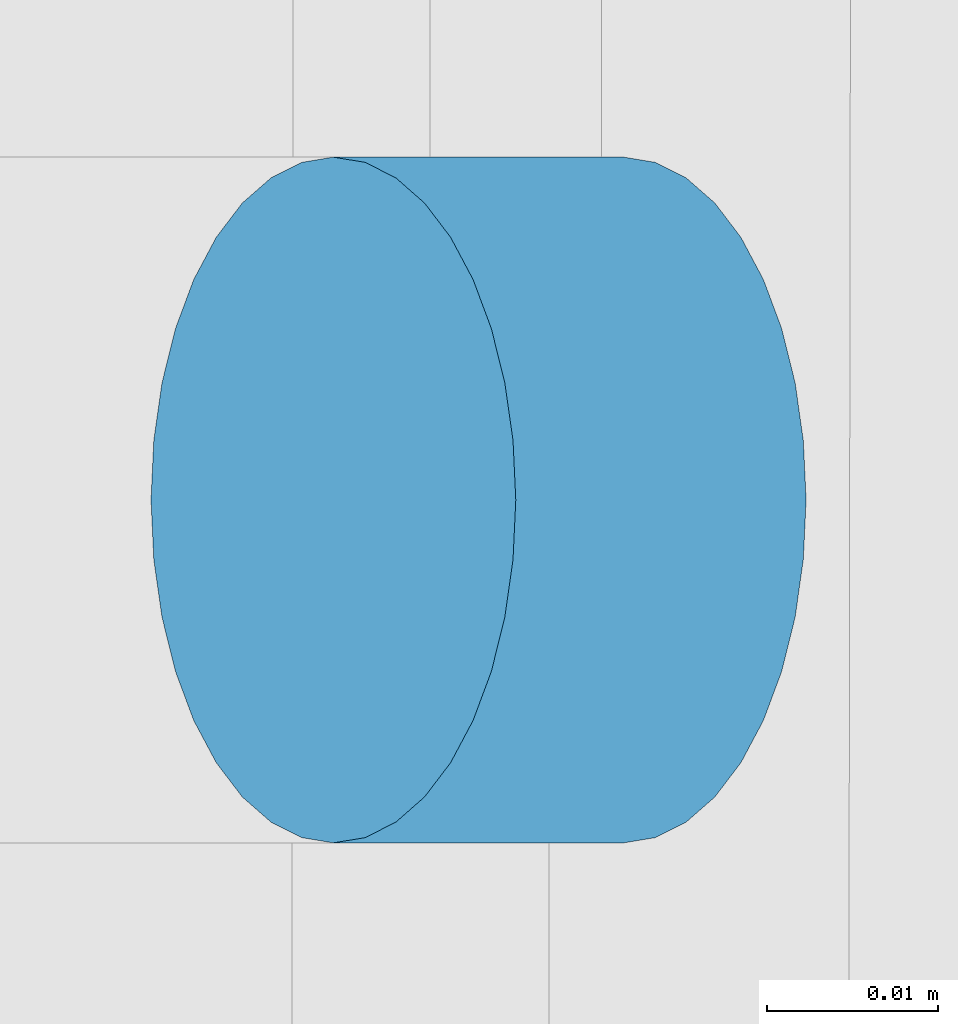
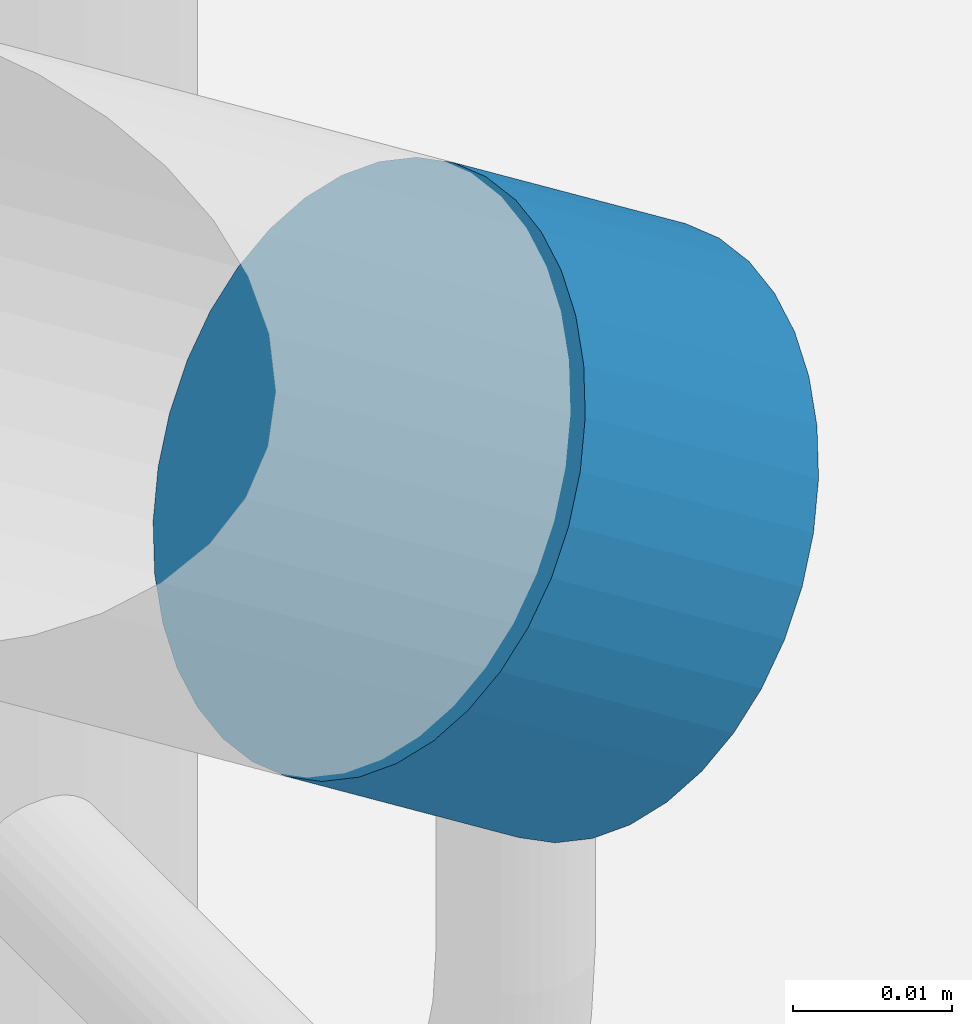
# One storey, part 149 of 237: 1 building element part, 1 element without a shape of its own.
"""IFC2X3 building model written with IfcOpenShell, lengths in millimetres."""

from ifc_helpers import new_model, entity, si_unit, converted_unit, derived_unit, money_unit, direction, frame, origin_with_axes, place, context, subcontext, project, spatial, faceted_brep, material, type_object, element, aggregate, save


model = new_model("IFC2X3")

# Units and contexts
model_context = context("Model", 3, precision=0.01, world=origin_with_axes(), true_north=direction((0.0, 1.0)))
body_context = subcontext(model_context, "Body", "Model", "MODEL_VIEW")
ifc_project = project(units=[si_unit("LENGTHUNIT", "METRE", prefix="MILLI"), si_unit("AREAUNIT", "SQUARE_METRE"), si_unit("VOLUMEUNIT", "CUBIC_METRE"), converted_unit("PLANEANGLEUNIT", "DEGREE", entity("IfcPlaneAngleMeasure", 0.0174532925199), si_unit("PLANEANGLEUNIT", "RADIAN"), dimensions=[0, 0, 0, 0, 0, 0, 0]), money_unit("USD"), converted_unit("TIMEUNIT", "Year", entity("IfcTimeMeasure", 31556926.0), si_unit("TIMEUNIT", "SECOND"), dimensions=[0, 0, 1, 0, 0, 0, 0]), si_unit("MASSUNIT", "GRAM", prefix="KILO"), si_unit("THERMODYNAMICTEMPERATUREUNIT", "DEGREE_CELSIUS"), si_unit("LUMINOUSINTENSITYUNIT", "LUMEN"), si_unit("ENERGYUNIT", "JOULE", prefix="MEGA"), derived_unit("THERMALCONDUCTANCEUNIT", [(si_unit("POWERUNIT", "WATT"), 1), (si_unit("LENGTHUNIT", "METRE"), -1), (si_unit("THERMODYNAMICTEMPERATUREUNIT", "KELVIN"), -1)]), derived_unit("SPECIFICHEATCAPACITYUNIT", [(si_unit("ENERGYUNIT", "JOULE"), 1), (si_unit("MASSUNIT", "GRAM", prefix="KILO"), -1), (si_unit("THERMODYNAMICTEMPERATUREUNIT", "KELVIN"), -1)]), derived_unit("MASSDENSITYUNIT", [(si_unit("MASSUNIT", "GRAM", prefix="KILO"), 1), (si_unit("VOLUMEUNIT", "CUBIC_METRE"), -1)])], contexts=[model_context])

# Site, building, storey
site_placement = place(None, origin_with_axes())
site = spatial("IfcSite", under=ifc_project, at=site_placement, Name="Local", CompositionType="ELEMENT")
building_placement = place(site_placement, origin_with_axes())
building = spatial("IfcBuilding", under=site, at=building_placement, Name="Construção", CompositionType="ELEMENT")
storey_placement = place(building_placement, origin_with_axes())
storey = spatial("IfcBuildingStorey", under=building, at=storey_placement, Name="Pavimento Térreo", CompositionType="ELEMENT", Elevation=0.0)

# Railing, building element part
railing_type = type_object("IfcRailingType", Name="Tipo de Guarda-Corpo", PredefinedType="NOTDEFINED")
railing_placement = place(storey_placement, frame((104000.0, 14000.0, -7099.22292764), z_axis=(0.0, 0.0, 1.0), x_axis=(1.0, 0.0, 0.0)))
railing = element("IfcRailing", 1, at=railing_placement, inside=storey, type_object=railing_type, Name="Guarda-Corpo - 001", PredefinedType="NOTDEFINED")
ifc_material = material(Name="Aço - Inoxidável")
building_element_part_placement = place(railing_placement, origin_with_axes())
building_element_part = element("IfcBuildingElementPart", 2, at=building_element_part_placement, material=ifc_material, Name="Aço - Inoxidável", context=body_context, shape_type="Brep", body=[
    faceted_brep([(-436.426596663, 694.521619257, 928.19352461), (-434.579116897, 694.217787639, 931.134324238), (-417.643726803, 694.217909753, 920.495124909), (-419.491206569, 694.521741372, 917.554325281), (-438.274072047, 694.217760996, 925.252724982), (-440.065408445, 693.315445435, 922.401280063), (-441.746177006, 691.842088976, 919.725829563), (-443.265308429, 689.842458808, 917.307665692), (-444.576644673, 687.377312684, 915.220263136), (-445.640341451, 684.52155282, 913.527046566), (-446.424078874, 681.361950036, 912.279463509), (-446.904043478, 677.994507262, 911.515421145), (-447.065651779, 674.521542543, 911.258134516), (-446.903993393, 671.048580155, 911.515421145), (-446.423980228, 667.681144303, 912.279463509), (-445.640197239, 664.521552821, 913.527046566), (-444.576459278, 661.665808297, 915.220263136), (-443.265087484, 659.200681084, 917.307665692), (-441.745927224, 657.201072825, 919.725829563), (-440.065137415, 655.727740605, 922.401280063), (-438.273788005, 654.825450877, 925.252724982), (-436.426308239, 654.521619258, 928.19352461), (-434.578832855, 654.82547752, 931.134324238), (-432.787496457, 655.727793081, 933.985769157), (-431.106727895, 657.20114954, 936.661219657), (-429.587596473, 659.200779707, 939.079383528), (-428.276260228, 661.665925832, 941.166786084), (-427.21256345, 664.521685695, 942.860002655), (-426.428826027, 667.68128848, 944.107585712), (-425.948861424, 671.048731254, 944.871628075), (-425.787253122, 674.521695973, 945.128914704), (-425.948911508, 677.994658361, 944.871628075), (-426.428924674, 681.362094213, 944.107585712), (-427.212707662, 684.521685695, 942.860002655), (-428.276445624, 687.377430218, 941.166786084), (-429.587817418, 689.842557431, 939.079383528), (-431.106977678, 691.842165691, 936.661219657), (-432.787767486, 693.315497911, 933.985769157), (-415.852377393, 693.315620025, 923.346569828), (-414.171587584, 691.842287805, 926.022020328), (-412.652427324, 689.842679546, 928.440184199), (-411.34105553, 687.377552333, 930.527586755), (-410.277317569, 684.521807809, 932.220803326), (-409.49353458, 681.362216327, 933.468386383), (-409.013521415, 677.994780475, 934.232428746), (-408.851863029, 674.521818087, 934.489715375), (-409.01347133, 671.048853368, 934.232428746), (-409.493435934, 667.681410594, 933.468386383), (-410.277173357, 664.521807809, 932.220803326), (-411.340870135, 661.666047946, 930.527586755), (-412.652206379, 659.200901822, 928.440184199), (-414.171337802, 657.201271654, 926.022020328), (-415.852106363, 655.727915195, 923.346569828), (-417.643442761, 654.825599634, 920.495124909), (-419.490918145, 654.521741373, 917.554325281), (-421.338397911, 654.825572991, 914.613525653), (-423.129747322, 655.727862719, 911.762080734), (-424.81053713, 657.201194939, 909.086630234), (-426.32969739, 659.200803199, 906.668466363), (-427.641069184, 661.665930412, 904.581063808), (-428.704807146, 664.521674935, 902.887847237), (-429.488590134, 667.681266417, 901.64026418), (-429.9686033, 671.048702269, 900.876221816), (-430.130261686, 674.521664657, 900.618935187), (-429.968653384, 677.994629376, 900.876221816), (-429.488688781, 681.36207215, 901.64026418), (-428.704951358, 684.521674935, 902.887847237), (-427.64125458, 687.377434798, 904.581063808), (-426.329918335, 689.842580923, 906.668466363), (-424.810786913, 691.84221109, 909.086630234), (-423.130018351, 693.315567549, 911.762080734), (-421.338681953, 694.21788311, 914.613525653)], [[[0, 1, 2, 3]], [[0, 4, 5, 6, 7, 8, 9, 10, 11, 12, 13, 14, 15, 16, 17, 18, 19, 20, 21, 22, 23, 24, 25, 26, 27, 28, 29, 30, 31, 32, 33, 34, 35, 36, 37, 1]], [[1, 37, 38, 2]], [[3, 2, 38, 39, 40, 41, 42, 43, 44, 45, 46, 47, 48, 49, 50, 51, 52, 53, 54, 55, 56, 57, 58, 59, 60, 61, 62, 63, 64, 65, 66, 67, 68, 69, 70, 71]], [[4, 0, 3, 71]], [[5, 4, 71, 70]], [[6, 5, 70, 69]], [[7, 6, 69, 68]], [[8, 7, 68, 67]], [[9, 8, 67, 66]], [[10, 9, 66, 65]], [[11, 10, 65, 64]], [[12, 11, 64, 63]], [[13, 12, 63, 62]], [[14, 13, 62, 61]], [[15, 14, 61, 60]], [[16, 15, 60, 59]], [[17, 16, 59, 58]], [[18, 17, 58, 57]], [[19, 18, 57, 56]], [[20, 19, 56, 55]], [[21, 20, 55, 54]], [[22, 21, 54, 53]], [[23, 22, 53, 52]], [[24, 23, 52, 51]], [[25, 24, 51, 50]], [[26, 25, 50, 49]], [[27, 26, 49, 48]], [[28, 27, 48, 47]], [[29, 28, 47, 46]], [[30, 29, 46, 45]], [[31, 30, 45, 44]], [[32, 31, 44, 43]], [[33, 32, 43, 42]], [[34, 33, 42, 41]], [[35, 34, 41, 40]], [[36, 35, 40, 39]], [[37, 36, 39, 38]]]),
])
aggregate(railing, [building_element_part])

save(model, "model.ifc")
